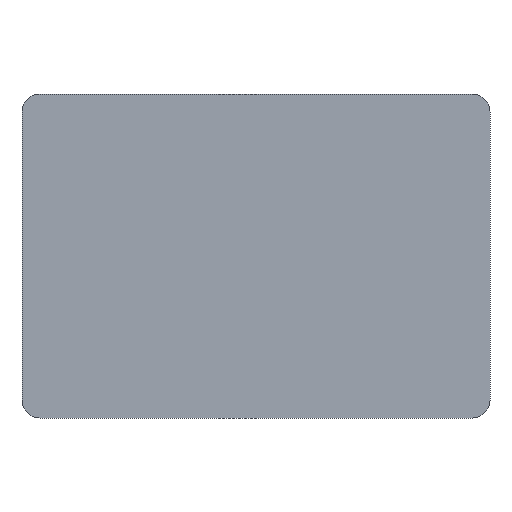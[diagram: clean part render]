
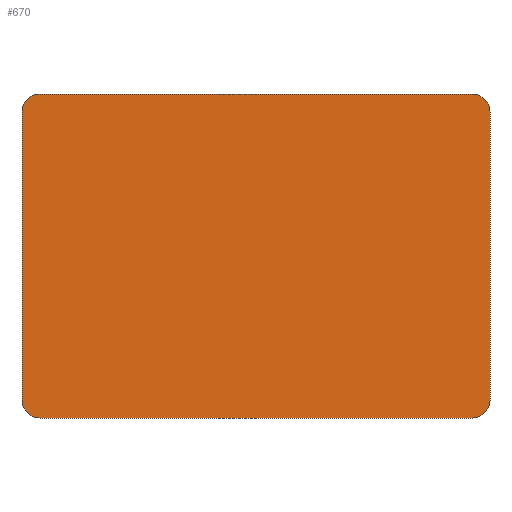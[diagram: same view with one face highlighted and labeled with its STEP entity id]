
A CAD part, left-side view. The second image highlights one B-rep face of the part: STEP entity #670.
In plain terms, the highlighted planar face has unit normal (-1, 0, 0).
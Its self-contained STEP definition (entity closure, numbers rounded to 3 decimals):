
#44 = PLANE('',#45);
#45 = AXIS2_PLACEMENT_3D('',#46,#47,#48);
#46 = CARTESIAN_POINT('',(66.6,-19.5,-29.5));
#47 = DIRECTION('',(-0.,1.,0.));
#48 = DIRECTION('',(0.,0.,-1.));
#77 = CYLINDRICAL_SURFACE('',#78,1.5);
#78 = AXIS2_PLACEMENT_3D('',#79,#80,#81);
#79 = CARTESIAN_POINT('',(66.6,-18.,-28.));
#80 = DIRECTION('',(-1.,-0.,-0.));
#81 = DIRECTION('',(-0.,-1.,-0.));
#105 = PLANE('',#106);
#106 = AXIS2_PLACEMENT_3D('',#107,#108,#109);
#107 = CARTESIAN_POINT('',(66.6,-19.5,-29.5));
#108 = DIRECTION('',(0.,0.,1.));
#109 = DIRECTION('',(1.,0.,0.));
#134 = CYLINDRICAL_SURFACE('',#135,1.5);
#135 = AXIS2_PLACEMENT_3D('',#136,#137,#138);
#136 = CARTESIAN_POINT('',(66.6,18.,-28.));
#137 = DIRECTION('',(-1.,-0.,-0.));
#138 = DIRECTION('',(-0.,1.,-0.));
#162 = PLANE('',#163);
#163 = AXIS2_PLACEMENT_3D('',#164,#165,#166);
#164 = CARTESIAN_POINT('',(66.6,19.5,-29.5));
#165 = DIRECTION('',(-0.,1.,0.));
#166 = DIRECTION('',(0.,0.,-1.));
#195 = CYLINDRICAL_SURFACE('',#196,1.5);
#196 = AXIS2_PLACEMENT_3D('',#197,#198,#199);
#197 = CARTESIAN_POINT('',(66.6,18.,-4.));
#198 = DIRECTION('',(-1.,-0.,-0.));
#199 = DIRECTION('',(-0.,1.,-0.));
#223 = PLANE('',#224);
#224 = AXIS2_PLACEMENT_3D('',#225,#226,#227);
#225 = CARTESIAN_POINT('',(66.6,-19.5,-2.5));
#226 = DIRECTION('',(0.,0.,1.));
#227 = DIRECTION('',(1.,0.,0.));
#250 = CYLINDRICAL_SURFACE('',#251,1.5);
#251 = AXIS2_PLACEMENT_3D('',#252,#253,#254);
#252 = CARTESIAN_POINT('',(66.6,-18.,-4.));
#253 = DIRECTION('',(-1.,-0.,-0.));
#254 = DIRECTION('',(-0.,-1.,-0.));
#265 = EDGE_CURVE('',#266,#268,#270,.T.);
#266 = VERTEX_POINT('',#267);
#267 = CARTESIAN_POINT('',(64.6,-19.5,-28.));
#268 = VERTEX_POINT('',#269);
#269 = CARTESIAN_POINT('',(64.6,-19.5,-4.));
#270 = SURFACE_CURVE('',#271,(#275,#282),.PCURVE_S1.);
#271 = LINE('',#272,#273);
#272 = CARTESIAN_POINT('',(64.6,-19.5,-29.5));
#273 = VECTOR('',#274,1.);
#274 = DIRECTION('',(0.,0.,1.));
#275 = PCURVE('',#44,#276);
#276 = DEFINITIONAL_REPRESENTATION('',(#277),#281);
#277 = LINE('',#278,#279);
#278 = CARTESIAN_POINT('',(-0.,2.));
#279 = VECTOR('',#280,1.);
#280 = DIRECTION('',(-1.,0.));
#281 = ( GEOMETRIC_REPRESENTATION_CONTEXT(2) 
PARAMETRIC_REPRESENTATION_CONTEXT() REPRESENTATION_CONTEXT('2D SPACE',''
  ) );
#282 = PCURVE('',#283,#288);
#283 = PLANE('',#284);
#284 = AXIS2_PLACEMENT_3D('',#285,#286,#287);
#285 = CARTESIAN_POINT('',(64.6,-19.5,-29.5));
#286 = DIRECTION('',(-1.,-0.,0.));
#287 = DIRECTION('',(0.,0.,-1.));
#288 = DEFINITIONAL_REPRESENTATION('',(#289),#293);
#289 = LINE('',#290,#291);
#290 = CARTESIAN_POINT('',(-0.,-0.));
#291 = VECTOR('',#292,1.);
#292 = DIRECTION('',(-1.,-0.));
#293 = ( GEOMETRIC_REPRESENTATION_CONTEXT(2) 
PARAMETRIC_REPRESENTATION_CONTEXT() REPRESENTATION_CONTEXT('2D SPACE',''
  ) );
#343 = VERTEX_POINT('',#344);
#344 = CARTESIAN_POINT('',(64.6,-18.,-29.5));
#365 = EDGE_CURVE('',#266,#343,#366,.T.);
#366 = SURFACE_CURVE('',#367,(#372,#379),.PCURVE_S1.);
#367 = CIRCLE('',#368,1.5);
#368 = AXIS2_PLACEMENT_3D('',#369,#370,#371);
#369 = CARTESIAN_POINT('',(64.6,-18.,-28.));
#370 = DIRECTION('',(1.,-0.,0.));
#371 = DIRECTION('',(-0.,-0.,1.));
#372 = PCURVE('',#77,#373);
#373 = DEFINITIONAL_REPRESENTATION('',(#374),#378);
#374 = LINE('',#375,#376);
#375 = CARTESIAN_POINT('',(1.571,2.));
#376 = VECTOR('',#377,1.);
#377 = DIRECTION('',(-1.,0.));
#378 = ( GEOMETRIC_REPRESENTATION_CONTEXT(2) 
PARAMETRIC_REPRESENTATION_CONTEXT() REPRESENTATION_CONTEXT('2D SPACE',''
  ) );
#379 = PCURVE('',#283,#380);
#380 = DEFINITIONAL_REPRESENTATION('',(#381),#389);
#381 = ( BOUNDED_CURVE() B_SPLINE_CURVE(2,(#382,#383,#384,#385,#386,#387
,#388),.UNSPECIFIED.,.T.,.F.) B_SPLINE_CURVE_WITH_KNOTS((1,2,2,2,2,1),(
    -2.094,0.,2.094,4.189,6.283,
8.378),.UNSPECIFIED.) CURVE() GEOMETRIC_REPRESENTATION_ITEM() 
RATIONAL_B_SPLINE_CURVE((1.,0.5,1.,0.5,1.,0.5,1.)) REPRESENTATION_ITEM(
  '') );
#382 = CARTESIAN_POINT('',(-3.,-1.5));
#383 = CARTESIAN_POINT('',(-3.,1.098));
#384 = CARTESIAN_POINT('',(-0.75,-0.201));
#385 = CARTESIAN_POINT('',(1.5,-1.5));
#386 = CARTESIAN_POINT('',(-0.75,-2.799));
#387 = CARTESIAN_POINT('',(-3.,-4.098));
#388 = CARTESIAN_POINT('',(-3.,-1.5));
#389 = ( GEOMETRIC_REPRESENTATION_CONTEXT(2) 
PARAMETRIC_REPRESENTATION_CONTEXT() REPRESENTATION_CONTEXT('2D SPACE',''
  ) );
#397 = VERTEX_POINT('',#398);
#398 = CARTESIAN_POINT('',(64.6,-18.,-2.5));
#419 = EDGE_CURVE('',#268,#397,#420,.T.);
#420 = SURFACE_CURVE('',#421,(#426,#433),.PCURVE_S1.);
#421 = CIRCLE('',#422,1.5);
#422 = AXIS2_PLACEMENT_3D('',#423,#424,#425);
#423 = CARTESIAN_POINT('',(64.6,-18.,-4.));
#424 = DIRECTION('',(-1.,-0.,-0.));
#425 = DIRECTION('',(-0.,-0.,1.));
#426 = PCURVE('',#250,#427);
#427 = DEFINITIONAL_REPRESENTATION('',(#428),#432);
#428 = LINE('',#429,#430);
#429 = CARTESIAN_POINT('',(-4.712,2.));
#430 = VECTOR('',#431,1.);
#431 = DIRECTION('',(1.,0.));
#432 = ( GEOMETRIC_REPRESENTATION_CONTEXT(2) 
PARAMETRIC_REPRESENTATION_CONTEXT() REPRESENTATION_CONTEXT('2D SPACE',''
  ) );
#433 = PCURVE('',#283,#434);
#434 = DEFINITIONAL_REPRESENTATION('',(#435),#439);
#435 = CIRCLE('',#436,1.5);
#436 = AXIS2_PLACEMENT_2D('',#437,#438);
#437 = CARTESIAN_POINT('',(-25.5,-1.5));
#438 = DIRECTION('',(-1.,-0.));
#439 = ( GEOMETRIC_REPRESENTATION_CONTEXT(2) 
PARAMETRIC_REPRESENTATION_CONTEXT() REPRESENTATION_CONTEXT('2D SPACE',''
  ) );
#447 = EDGE_CURVE('',#343,#448,#450,.T.);
#448 = VERTEX_POINT('',#449);
#449 = CARTESIAN_POINT('',(64.6,18.,-29.5));
#450 = SURFACE_CURVE('',#451,(#455,#462),.PCURVE_S1.);
#451 = LINE('',#452,#453);
#452 = CARTESIAN_POINT('',(64.6,-19.5,-29.5));
#453 = VECTOR('',#454,1.);
#454 = DIRECTION('',(-0.,1.,0.));
#455 = PCURVE('',#105,#456);
#456 = DEFINITIONAL_REPRESENTATION('',(#457),#461);
#457 = LINE('',#458,#459);
#458 = CARTESIAN_POINT('',(-2.,0.));
#459 = VECTOR('',#460,1.);
#460 = DIRECTION('',(-0.,1.));
#461 = ( GEOMETRIC_REPRESENTATION_CONTEXT(2) 
PARAMETRIC_REPRESENTATION_CONTEXT() REPRESENTATION_CONTEXT('2D SPACE',''
  ) );
#462 = PCURVE('',#283,#463);
#463 = DEFINITIONAL_REPRESENTATION('',(#464),#468);
#464 = LINE('',#465,#466);
#465 = CARTESIAN_POINT('',(-0.,-0.));
#466 = VECTOR('',#467,1.);
#467 = DIRECTION('',(-0.,-1.));
#468 = ( GEOMETRIC_REPRESENTATION_CONTEXT(2) 
PARAMETRIC_REPRESENTATION_CONTEXT() REPRESENTATION_CONTEXT('2D SPACE',''
  ) );
#496 = EDGE_CURVE('',#397,#497,#499,.T.);
#497 = VERTEX_POINT('',#498);
#498 = CARTESIAN_POINT('',(64.6,18.,-2.5));
#499 = SURFACE_CURVE('',#500,(#504,#511),.PCURVE_S1.);
#500 = LINE('',#501,#502);
#501 = CARTESIAN_POINT('',(64.6,-19.5,-2.5));
#502 = VECTOR('',#503,1.);
#503 = DIRECTION('',(-0.,1.,0.));
#504 = PCURVE('',#223,#505);
#505 = DEFINITIONAL_REPRESENTATION('',(#506),#510);
#506 = LINE('',#507,#508);
#507 = CARTESIAN_POINT('',(-2.,0.));
#508 = VECTOR('',#509,1.);
#509 = DIRECTION('',(-0.,1.));
#510 = ( GEOMETRIC_REPRESENTATION_CONTEXT(2) 
PARAMETRIC_REPRESENTATION_CONTEXT() REPRESENTATION_CONTEXT('2D SPACE',''
  ) );
#511 = PCURVE('',#283,#512);
#512 = DEFINITIONAL_REPRESENTATION('',(#513),#517);
#513 = LINE('',#514,#515);
#514 = CARTESIAN_POINT('',(-27.,-0.));
#515 = VECTOR('',#516,1.);
#516 = DIRECTION('',(-0.,-1.));
#517 = ( GEOMETRIC_REPRESENTATION_CONTEXT(2) 
PARAMETRIC_REPRESENTATION_CONTEXT() REPRESENTATION_CONTEXT('2D SPACE',''
  ) );
#545 = EDGE_CURVE('',#546,#448,#548,.T.);
#546 = VERTEX_POINT('',#547);
#547 = CARTESIAN_POINT('',(64.6,19.5,-28.));
#548 = SURFACE_CURVE('',#549,(#554,#561),.PCURVE_S1.);
#549 = CIRCLE('',#550,1.5);
#550 = AXIS2_PLACEMENT_3D('',#551,#552,#553);
#551 = CARTESIAN_POINT('',(64.6,18.,-28.));
#552 = DIRECTION('',(-1.,-0.,-0.));
#553 = DIRECTION('',(-0.,-0.,1.));
#554 = PCURVE('',#134,#555);
#555 = DEFINITIONAL_REPRESENTATION('',(#556),#560);
#556 = LINE('',#557,#558);
#557 = CARTESIAN_POINT('',(-1.571,2.));
#558 = VECTOR('',#559,1.);
#559 = DIRECTION('',(1.,0.));
#560 = ( GEOMETRIC_REPRESENTATION_CONTEXT(2) 
PARAMETRIC_REPRESENTATION_CONTEXT() REPRESENTATION_CONTEXT('2D SPACE',''
  ) );
#561 = PCURVE('',#283,#562);
#562 = DEFINITIONAL_REPRESENTATION('',(#563),#567);
#563 = CIRCLE('',#564,1.5);
#564 = AXIS2_PLACEMENT_2D('',#565,#566);
#565 = CARTESIAN_POINT('',(-1.5,-37.5));
#566 = DIRECTION('',(-1.,-0.));
#567 = ( GEOMETRIC_REPRESENTATION_CONTEXT(2) 
PARAMETRIC_REPRESENTATION_CONTEXT() REPRESENTATION_CONTEXT('2D SPACE',''
  ) );
#595 = EDGE_CURVE('',#596,#497,#598,.T.);
#596 = VERTEX_POINT('',#597);
#597 = CARTESIAN_POINT('',(64.6,19.5,-4.));
#598 = SURFACE_CURVE('',#599,(#604,#611),.PCURVE_S1.);
#599 = CIRCLE('',#600,1.5);
#600 = AXIS2_PLACEMENT_3D('',#601,#602,#603);
#601 = CARTESIAN_POINT('',(64.6,18.,-4.));
#602 = DIRECTION('',(1.,-0.,0.));
#603 = DIRECTION('',(-0.,-0.,1.));
#604 = PCURVE('',#195,#605);
#605 = DEFINITIONAL_REPRESENTATION('',(#606),#610);
#606 = LINE('',#607,#608);
#607 = CARTESIAN_POINT('',(4.712,2.));
#608 = VECTOR('',#609,1.);
#609 = DIRECTION('',(-1.,0.));
#610 = ( GEOMETRIC_REPRESENTATION_CONTEXT(2) 
PARAMETRIC_REPRESENTATION_CONTEXT() REPRESENTATION_CONTEXT('2D SPACE',''
  ) );
#611 = PCURVE('',#283,#612);
#612 = DEFINITIONAL_REPRESENTATION('',(#613),#621);
#613 = ( BOUNDED_CURVE() B_SPLINE_CURVE(2,(#614,#615,#616,#617,#618,#619
,#620),.UNSPECIFIED.,.T.,.F.) B_SPLINE_CURVE_WITH_KNOTS((1,2,2,2,2,1),(
    -2.094,0.,2.094,4.189,6.283,
8.378),.UNSPECIFIED.) CURVE() GEOMETRIC_REPRESENTATION_ITEM() 
RATIONAL_B_SPLINE_CURVE((1.,0.5,1.,0.5,1.,0.5,1.)) REPRESENTATION_ITEM(
  '') );
#614 = CARTESIAN_POINT('',(-27.,-37.5));
#615 = CARTESIAN_POINT('',(-27.,-34.902));
#616 = CARTESIAN_POINT('',(-24.75,-36.201));
#617 = CARTESIAN_POINT('',(-22.5,-37.5));
#618 = CARTESIAN_POINT('',(-24.75,-38.799));
#619 = CARTESIAN_POINT('',(-27.,-40.098));
#620 = CARTESIAN_POINT('',(-27.,-37.5));
#621 = ( GEOMETRIC_REPRESENTATION_CONTEXT(2) 
PARAMETRIC_REPRESENTATION_CONTEXT() REPRESENTATION_CONTEXT('2D SPACE',''
  ) );
#647 = EDGE_CURVE('',#546,#596,#648,.T.);
#648 = SURFACE_CURVE('',#649,(#653,#660),.PCURVE_S1.);
#649 = LINE('',#650,#651);
#650 = CARTESIAN_POINT('',(64.6,19.5,-29.5));
#651 = VECTOR('',#652,1.);
#652 = DIRECTION('',(0.,0.,1.));
#653 = PCURVE('',#162,#654);
#654 = DEFINITIONAL_REPRESENTATION('',(#655),#659);
#655 = LINE('',#656,#657);
#656 = CARTESIAN_POINT('',(-0.,2.));
#657 = VECTOR('',#658,1.);
#658 = DIRECTION('',(-1.,0.));
#659 = ( GEOMETRIC_REPRESENTATION_CONTEXT(2) 
PARAMETRIC_REPRESENTATION_CONTEXT() REPRESENTATION_CONTEXT('2D SPACE',''
  ) );
#660 = PCURVE('',#283,#661);
#661 = DEFINITIONAL_REPRESENTATION('',(#662),#666);
#662 = LINE('',#663,#664);
#663 = CARTESIAN_POINT('',(-0.,-39.));
#664 = VECTOR('',#665,1.);
#665 = DIRECTION('',(-1.,-0.));
#666 = ( GEOMETRIC_REPRESENTATION_CONTEXT(2) 
PARAMETRIC_REPRESENTATION_CONTEXT() REPRESENTATION_CONTEXT('2D SPACE',''
  ) );
#670 = ADVANCED_FACE('',(#671),#283,.T.);
#671 = FACE_BOUND('',#672,.F.);
#672 = EDGE_LOOP('',(#673,#674,#675,#676,#677,#678,#679,#680));
#673 = ORIENTED_EDGE('',*,*,#265,.F.);
#674 = ORIENTED_EDGE('',*,*,#365,.T.);
#675 = ORIENTED_EDGE('',*,*,#447,.T.);
#676 = ORIENTED_EDGE('',*,*,#545,.F.);
#677 = ORIENTED_EDGE('',*,*,#647,.T.);
#678 = ORIENTED_EDGE('',*,*,#595,.T.);
#679 = ORIENTED_EDGE('',*,*,#496,.F.);
#680 = ORIENTED_EDGE('',*,*,#419,.F.);
